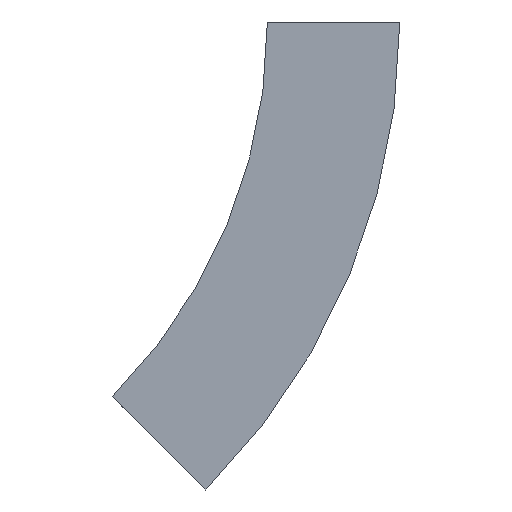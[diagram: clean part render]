
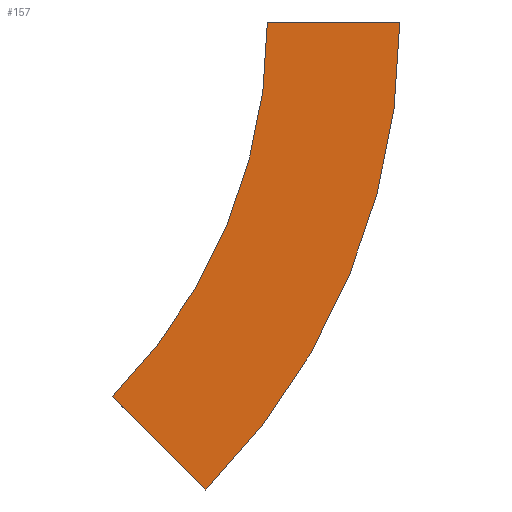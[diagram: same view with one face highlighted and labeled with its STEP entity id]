
A CAD part, left-side view. The second image highlights one B-rep face of the part: STEP entity #157.
In plain terms, the highlighted planar face has unit normal (-1, 0, 0) as drawn and (1, 0, 0) by its records, which use the part's own axes.
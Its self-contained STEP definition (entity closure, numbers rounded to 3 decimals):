
#8 = CARTESIAN_POINT ( 'NONE',  ( 0., 300., 0. ) ) ;
#14 = VERTEX_POINT ( 'NONE', #341 ) ;
#18 = DIRECTION ( 'NONE',  ( 0., 0., 1. ) ) ;
#20 = LINE ( 'NONE', #363, #526 ) ;
#22 = VERTEX_POINT ( 'NONE', #265 ) ;
#34 = AXIS2_PLACEMENT_3D ( 'NONE', #529, #534, #319 ) ;
#41 = EDGE_CURVE ( 'NONE', #127, #22, #122, .T. ) ;
#117 = ORIENTED_EDGE ( 'NONE', *, *, #178, .T. ) ;
#122 = LINE ( 'NONE', #469, #143 ) ;
#127 = VERTEX_POINT ( 'NONE', #180 ) ;
#143 = VECTOR ( 'NONE', #261, 1000. ) ;
#157 = ADVANCED_FACE ( 'NONE', ( #274 ), #442, .F. ) ;
#178 = EDGE_CURVE ( 'NONE', #127, #422, #208, .T. ) ;
#180 = CARTESIAN_POINT ( 'NONE',  ( 0., -75., 0. ) ) ;
#208 = CIRCLE ( 'NONE', #34, 375. ) ;
#254 = AXIS2_PLACEMENT_3D ( 'NONE', #8, #318, #451 ) ;
#261 = DIRECTION ( 'NONE',  ( 0., 1., 0. ) ) ;
#264 = EDGE_CURVE ( 'NONE', #422, #14, #20, .T. ) ;
#265 = CARTESIAN_POINT ( 'NONE',  ( 0., 0., 0. ) ) ;
#274 = FACE_OUTER_BOUND ( 'NONE', #297, .T. ) ;
#281 = ORIENTED_EDGE ( 'NONE', *, *, #41, .F. ) ;
#289 = CIRCLE ( 'NONE', #254, 300. ) ;
#297 = EDGE_LOOP ( 'NONE', ( #464, #281, #117, #425 ) ) ;
#318 = DIRECTION ( 'NONE',  ( 1., 0., 0. ) ) ;
#319 = DIRECTION ( 'NONE',  ( 0., -1., 0. ) ) ;
#341 = CARTESIAN_POINT ( 'NONE',  ( 0., 87.868, -212.132 ) ) ;
#347 = CARTESIAN_POINT ( 'NONE',  ( 0., 34.835, -265.165 ) ) ;
#363 = CARTESIAN_POINT ( 'NONE',  ( 0., 34.835, -265.165 ) ) ;
#378 = AXIS2_PLACEMENT_3D ( 'NONE', #407, #541, #18 ) ;
#407 = CARTESIAN_POINT ( 'NONE',  ( 0., -75., 0. ) ) ;
#422 = VERTEX_POINT ( 'NONE', #347 ) ;
#425 = ORIENTED_EDGE ( 'NONE', *, *, #264, .T. ) ;
#441 = DIRECTION ( 'NONE',  ( 0., 0.707, 0.707 ) ) ;
#442 = PLANE ( 'NONE',  #378 ) ;
#451 = DIRECTION ( 'NONE',  ( 0., -1., 0. ) ) ;
#455 = EDGE_CURVE ( 'NONE', #22, #14, #289, .T. ) ;
#464 = ORIENTED_EDGE ( 'NONE', *, *, #455, .F. ) ;
#469 = CARTESIAN_POINT ( 'NONE',  ( 0., -75., 0. ) ) ;
#526 = VECTOR ( 'NONE', #441, 1000. ) ;
#529 = CARTESIAN_POINT ( 'NONE',  ( 0., 300., 0. ) ) ;
#534 = DIRECTION ( 'NONE',  ( 1., 0., 0. ) ) ;
#541 = DIRECTION ( 'NONE',  ( -1., 0., 0. ) ) ;
